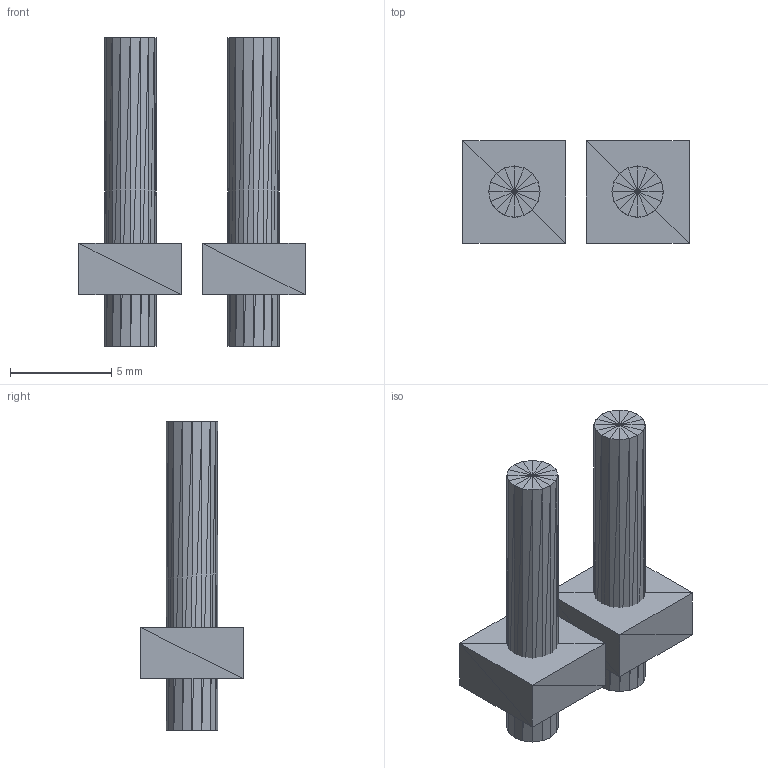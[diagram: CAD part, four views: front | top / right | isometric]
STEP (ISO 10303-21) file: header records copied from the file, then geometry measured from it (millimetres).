
FILE_DESCRIPTION(('HOOPS Exchange Step'),'2;1');
FILE_NAME('***.stp');
FILE_SCHEMA( ('AP242_MANAGED_MODEL_BASED_3D_ENGINEERING_MIM_LF {1 0 10303 442 1 1 4 }') );
Length unit declared in the file: inch
Products named in the file (5): PWRPINS_2; PWRPINS_3; PWRPINS_4; PWRPINS_5; PWRPINS
Assembly tree (4 placements, depth 2):
  PWRPINS
    PWRPINS_2
    PWRPINS_3
    PWRPINS_4
    PWRPINS_5
Bounding box: 11.18 x 5.08 x 15.24 mm (x, y, z)
Volume: 281.6 mm3; surface area: 467.9 mm2
Topology: 4 solids, 4 shells, 152 faces, 228 edges, 84 vertices
Faces by surface type: plane 152
Entity records: 3197 total; most frequent: DIRECTION 552, CARTESIAN_POINT 474, ORIENTED_EDGE 456, VECTOR 228, LINE 228, EDGE_CURVE 228, AXIS2_PLACEMENT_3D 162, PLANE 152
